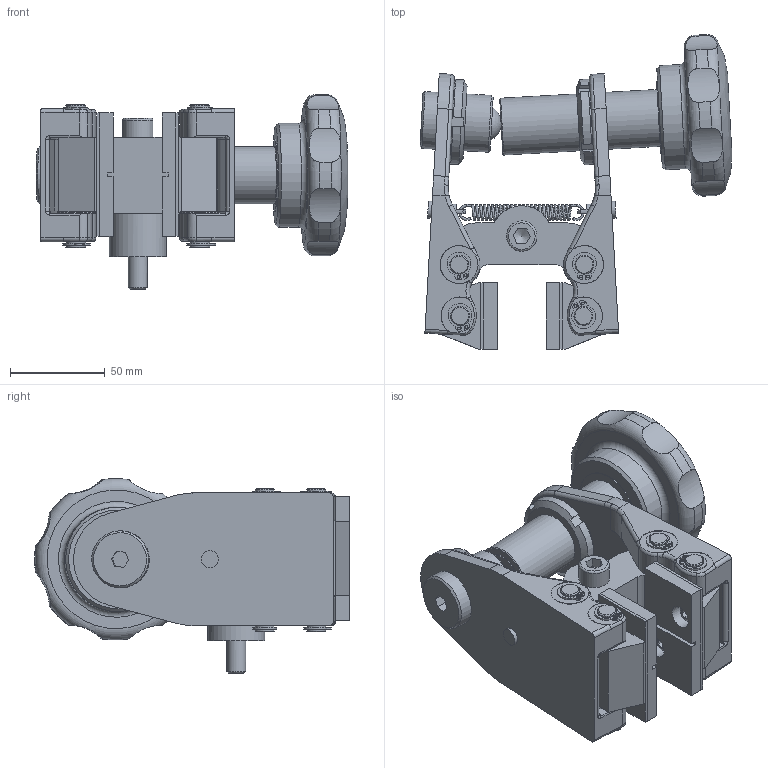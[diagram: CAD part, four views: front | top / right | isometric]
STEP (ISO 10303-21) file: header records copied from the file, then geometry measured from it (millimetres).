
FILE_DESCRIPTION(/* description */ ('','CAx-IF Rec.Pracs.---Representation and Presentation of Product Manufacturing Information (PMI)---4.0---2014-10-13'),/* implementation_level */ '2;1');
FILE_NAME(/* name */ 'X:\INVENTOR\DISEGNI\19_Pinze\STEP x Sito\19_06_000_04 PMB000_25,4.stp',/* time_stamp */ '2018-01-31T16:12:08+01:00',/* author */ ('stefano'),/* organization */ (''),/* preprocessor_version */ 'ST-DEVELOPER v17',/* originating_system */ 'Autodesk Inventor 2018',/* authorisation */ '');
FILE_SCHEMA (('AP242_MANAGED_MODEL_BASED_3D_ENGINEERING_MIM_LF { 1 0 10303 442 1 1 4 }'));
Length unit declared in the file: millimetre
Products named in the file (1): 19_06_000_04 PMB000_25,4_Substitute_1
Bounding box: 164.29 x 165.76 x 102.44 mm (x, y, z)
Volume: 556599.4 mm3; surface area: 128252.5 mm2
Topology: 4 solids, 4 shells, 637 faces, 1712 edges, 1120 vertices
Faces by surface type: plane 302, cylinder 219, torus 64, cone 31, bspline 18, sphere 3
Full cylindrical faces by diameter (mm): 1.2 x2, 1.5 x16, 2.5 x2, 7.4 x2, 7.5 x2, 9 x2, 9.5 x8, 10 x19, 10.1 x1, 10.5 x4, 12 x4, 16 x1, 22 x1, 22.3 x1, 28.4 x1, 30 x5, 31 x1, 38 x2, 55 x1
Entity records: 25246 total; most frequent: CARTESIAN_POINT 8539, DIRECTION 3523, ORIENTED_EDGE 3388, EDGE_CURVE 1694, AXIS2_PLACEMENT_3D 1365, VERTEX_POINT 1120, LINE 793, VECTOR 793
